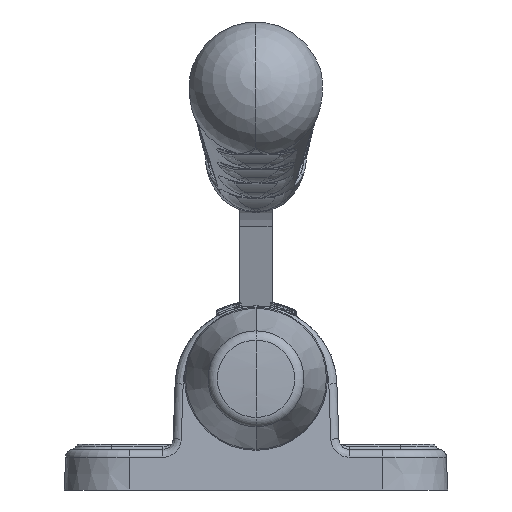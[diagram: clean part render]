
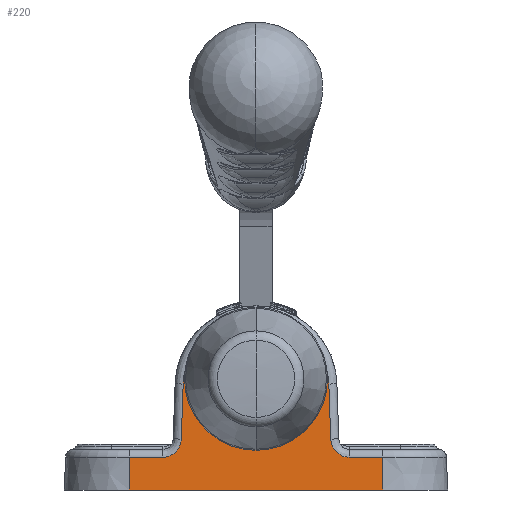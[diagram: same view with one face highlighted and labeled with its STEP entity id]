
A CAD part, left-side view. The second image highlights one B-rep face of the part: STEP entity #220.
In plain terms, the highlighted planar face has unit normal (-0.999, 0, 0.035).
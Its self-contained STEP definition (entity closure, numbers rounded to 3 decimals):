
#220=ADVANCED_FACE('',(#3148,#3149),#3150,.T.);
#3148=FACE_BOUND('',#9102,.T.);
#3149=FACE_OUTER_BOUND('',#9103,.T.);
#3150=PLANE('',#9104);
#9102=EDGE_LOOP('',(#34791,#34792));
#9103=EDGE_LOOP('',(#34793,#34794,#34795,#34796,#34797,#34798,#34799,#34800,#34801,#34802));
#9104=AXIS2_PLACEMENT_3D('',#34803,#34804,#34805);
#34791=ORIENTED_EDGE('',*,*,#53837,.T.);
#34792=ORIENTED_EDGE('',*,*,#54623,.T.);
#34793=ORIENTED_EDGE('',*,*,#54624,.F.);
#34794=ORIENTED_EDGE('',*,*,#54625,.T.);
#34795=ORIENTED_EDGE('',*,*,#54626,.T.);
#34796=ORIENTED_EDGE('',*,*,#54627,.T.);
#34797=ORIENTED_EDGE('',*,*,#54628,.F.);
#34798=ORIENTED_EDGE('',*,*,#54629,.T.);
#34799=ORIENTED_EDGE('',*,*,#54630,.F.);
#34800=ORIENTED_EDGE('',*,*,#54631,.T.);
#34801=ORIENTED_EDGE('',*,*,#54632,.T.);
#34802=ORIENTED_EDGE('',*,*,#54633,.T.);
#34803=CARTESIAN_POINT('',(-55.661,0.028,0.0));
#34804=DIRECTION('',(-0.999,0.0,0.035));
#34805=DIRECTION('',(0.0,1.0,0.0));
#53837=EDGE_CURVE('',#61250,#61247,#61251,.T.);
#54623=EDGE_CURVE('',#61247,#61250,#62784,.T.);
#54624=EDGE_CURVE('',#62785,#62786,#62787,.T.);
#54625=EDGE_CURVE('',#62785,#62788,#62789,.T.);
#54626=EDGE_CURVE('',#62788,#62790,#62791,.T.);
#54627=EDGE_CURVE('',#62790,#62792,#62793,.T.);
#54628=EDGE_CURVE('',#62794,#62792,#62795,.T.);
#54629=EDGE_CURVE('',#62794,#62796,#62797,.T.);
#54630=EDGE_CURVE('',#62798,#62796,#62799,.T.);
#54631=EDGE_CURVE('',#62798,#62800,#62801,.T.);
#54632=EDGE_CURVE('',#62800,#62802,#62803,.T.);
#54633=EDGE_CURVE('',#62802,#62786,#62804,.T.);
#61247=VERTEX_POINT('',#72965);
#61250=VERTEX_POINT('',#72969);
#61251=B_SPLINE_CURVE_WITH_KNOTS('',3,(#72970,#72971,#72972,#72973,#72974,#72975,#72976,#72977,#72978,#72979),.UNSPECIFIED.,.F.,.F.,(4,2,2,2,4),(0.,0.125,0.25,0.375,0.5),.UNSPECIFIED.);
#62784=B_SPLINE_CURVE_WITH_KNOTS('',3,(#78570,#78571,#78572,#78573,#78574,#78575,#78576,#78577,#78578,#78579),.UNSPECIFIED.,.F.,.F.,(4,2,2,2,4),(0.5,0.625,0.75,0.875,1.0),.UNSPECIFIED.);
#62785=VERTEX_POINT('',#78580);
#62786=VERTEX_POINT('',#78581);
#62787=ELLIPSE('',#78582,3.502,3.5);
#62788=VERTEX_POINT('',#78583);
#62789=LINE('',#78584,#78585);
#62790=VERTEX_POINT('',#78586);
#62791=LINE('',#78587,#78588);
#62792=VERTEX_POINT('',#78589);
#62793=LINE('',#78590,#78591);
#62794=VERTEX_POINT('',#78592);
#62795=LINE('',#78593,#78594);
#62796=VERTEX_POINT('',#78595);
#62797=LINE('',#78596,#78597);
#62798=VERTEX_POINT('',#78598);
#62799=ELLIPSE('',#78599,3.502,3.5);
#62800=VERTEX_POINT('',#78600);
#62801=LINE('',#78601,#78602);
#62802=VERTEX_POINT('',#78603);
#62803=ELLIPSE('',#78604,13.508,13.5);
#62804=LINE('',#78605,#78606);
#72965=CARTESIAN_POINT('',(-55.273,0.028,11.109));
#72969=CARTESIAN_POINT('',(-54.609,0.028,30.125));
#72970=CARTESIAN_POINT('',(-54.609,0.028,30.125));
#72971=CARTESIAN_POINT('',(-54.609,-2.465,30.124));
#72972=CARTESIAN_POINT('',(-54.645,-4.934,29.101));
#72973=CARTESIAN_POINT('',(-54.768,-8.457,25.578));
#72974=CARTESIAN_POINT('',(-54.854,-9.48,23.108));
#72975=CARTESIAN_POINT('',(-55.028,-9.481,18.125));
#72976=CARTESIAN_POINT('',(-55.115,-8.457,15.656));
#72977=CARTESIAN_POINT('',(-55.238,-4.934,12.132));
#72978=CARTESIAN_POINT('',(-55.273,-2.464,11.109));
#72979=CARTESIAN_POINT('',(-55.273,0.028,11.109));
#78570=CARTESIAN_POINT('',(-55.273,0.028,11.109));
#78571=CARTESIAN_POINT('',(-55.273,2.519,11.109));
#78572=CARTESIAN_POINT('',(-55.238,4.989,12.132));
#78573=CARTESIAN_POINT('',(-55.115,8.512,15.655));
#78574=CARTESIAN_POINT('',(-55.028,9.535,18.125));
#78575=CARTESIAN_POINT('',(-54.854,9.536,23.108));
#78576=CARTESIAN_POINT('',(-54.768,8.512,25.578));
#78577=CARTESIAN_POINT('',(-54.645,4.989,29.102));
#78578=CARTESIAN_POINT('',(-54.609,2.52,30.125));
#78579=CARTESIAN_POINT('',(-54.609,0.028,30.125));
#78580=CARTESIAN_POINT('',(-55.45,17.373,6.052));
#78581=CARTESIAN_POINT('',(-55.332,13.875,9.43));
#78582=AXIS2_PLACEMENT_3D('',#115383,#115384,#115385);
#78583=CARTESIAN_POINT('',(-55.45,23.528,6.052));
#78584=CARTESIAN_POINT('',(-55.45,23.528,6.052));
#78585=VECTOR('',#115386,1.0);
#78586=CARTESIAN_POINT('',(-55.661,23.528,0.0));
#78587=CARTESIAN_POINT('',(-55.661,23.528,0.0));
#78588=VECTOR('',#115387,1.0);
#78589=CARTESIAN_POINT('',(-55.661,-23.472,0.0));
#78590=CARTESIAN_POINT('',(-55.661,0.028,0.0));
#78591=VECTOR('',#115388,1.0);
#78592=CARTESIAN_POINT('',(-55.45,-23.472,6.052));
#78593=CARTESIAN_POINT('',(-55.661,-23.472,0.0));
#78594=VECTOR('',#115389,1.0);
#78595=CARTESIAN_POINT('',(-55.45,-17.318,6.052));
#78596=CARTESIAN_POINT('',(-55.45,-16.948,6.052));
#78597=VECTOR('',#115390,1.0);
#78598=CARTESIAN_POINT('',(-55.332,-13.82,9.43));
#78599=AXIS2_PLACEMENT_3D('',#115391,#115392,#115393);
#78600=CARTESIAN_POINT('',(-54.976,-13.464,19.623));
#78601=CARTESIAN_POINT('',(-55.644,-14.132,0.494));
#78602=VECTOR('',#115394,1.0);
#78603=CARTESIAN_POINT('',(-54.976,13.519,19.623));
#78604=AXIS2_PLACEMENT_3D('',#115395,#115396,#115397);
#78605=CARTESIAN_POINT('',(-55.401,13.945,7.448));
#78606=VECTOR('',#115398,1.0);
#115383=CARTESIAN_POINT('',(-55.328,17.373,9.552));
#115384=DIRECTION('',(-0.999,0.0,0.035));
#115385=DIRECTION('',(0.035,0.0,0.999));
#115386=DIRECTION('',(0.0,1.0,0.0));
#115387=DIRECTION('',(-0.035,0.0,-0.999));
#115388=DIRECTION('',(0.0,-1.0,0.0));
#115389=DIRECTION('',(-0.035,0.0,-0.999));
#115390=DIRECTION('',(0.0,1.0,0.0));
#115391=CARTESIAN_POINT('',(-55.328,-17.318,9.552));
#115392=DIRECTION('',(-0.999,0.0,0.035));
#115393=DIRECTION('',(-0.035,0.0,-0.999));
#115394=DIRECTION('',(0.035,0.035,0.999));
#115395=CARTESIAN_POINT('',(-54.992,0.028,19.152));
#115396=DIRECTION('',(-0.999,0.0,0.035));
#115397=DIRECTION('',(-0.035,0.0,-0.999));
#115398=DIRECTION('',(-0.035,0.035,-0.999));
